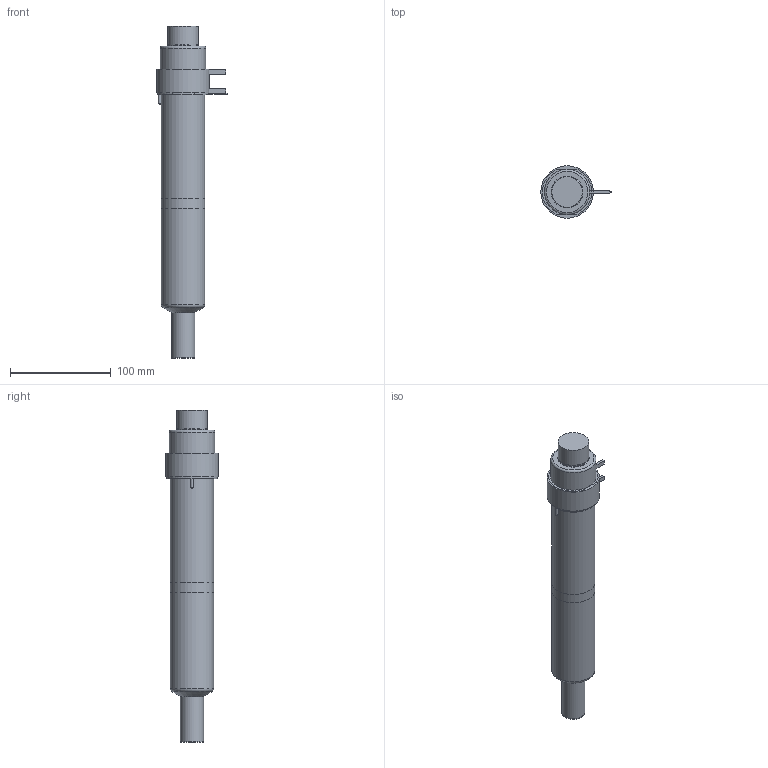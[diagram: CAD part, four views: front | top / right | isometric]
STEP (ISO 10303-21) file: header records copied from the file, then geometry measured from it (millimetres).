
FILE_DESCRIPTION(/* description */ (''),/* implementation_level */ '2;1');
FILE_NAME(/* name */ 'SXYCN27225P7U_200C_a',/* time_stamp */ '2016-03-07T10:35:02+13:00',/* author */ (''),/* organization */ (''),/* preprocessor_version */ 'ST-DEVELOPER v9',/* originating_system */ 'UGS - NX 4.0',/* authorisation */ '');
FILE_SCHEMA (('CONFIG_CONTROL_DESIGN'));
Length unit declared in the file: millimetre
Products named in the file (1): Matt0C2Fmygu
Bounding box: 69.6 x 52 x 328.9 mm (x, y, z)
Volume: 773812.1 mm3; surface area: 92121.7 mm2
Topology: 7 solids, 7 shells, 91 faces, 176 edges, 113 vertices
Faces by surface type: plane 43, cylinder 29, torus 9, cone 8, bspline 1, sphere 1
Full cylindrical faces by diameter (mm): 1 x3, 2.2 x1, 2.5 x2, 12 x2, 22.61 x1, 22.995 x2, 27.5 x1, 30 x1, 30.4 x1, 38.1 x2, 43 x2, 45 x1, 50 x1, 52 x1
Entity records: 2357 total; most frequent: CARTESIAN_POINT 540, DIRECTION 380, ORIENTED_EDGE 276, AXIS2_PLACEMENT_3D 165, EDGE_LOOP 138, EDGE_CURVE 138, VERTEX_POINT 109, ADVANCED_FACE 91
